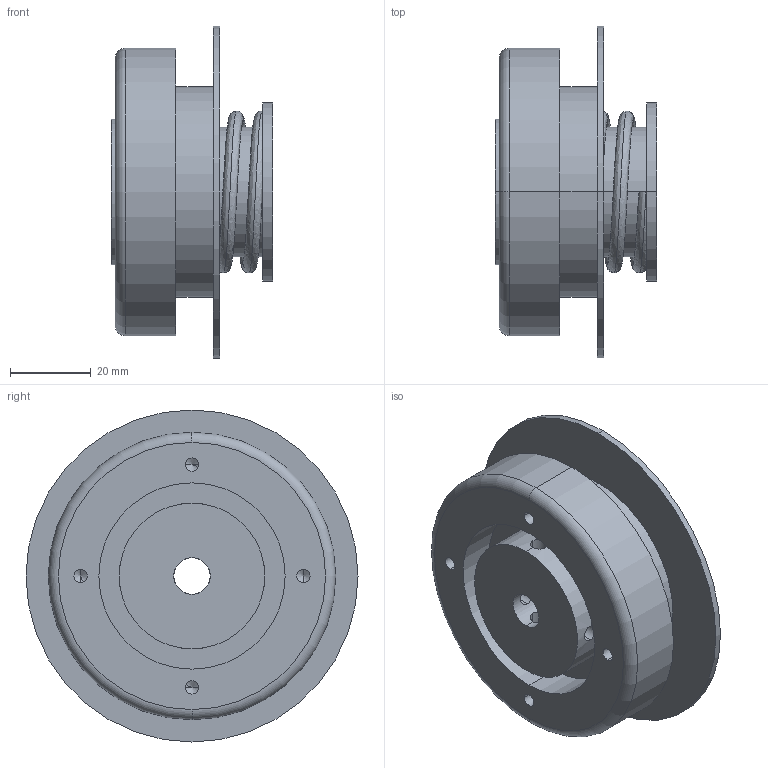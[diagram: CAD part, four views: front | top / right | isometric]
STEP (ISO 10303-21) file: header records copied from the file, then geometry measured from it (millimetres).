
FILE_DESCRIPTION (( 'STEP AP203' ), '1' );
FILE_NAME ('ST5C-030C.STEP', '2009-09-30T17:52:24', ( 'USER' ), ( 'HOME' ), 'SwSTEP 2.0', 'SolidWorks 2007', '' );
FILE_SCHEMA (( 'CONFIG_CONTROL_DESIGN' ));
Length unit declared in the file: millimetre
Products named in the file (1): ST5C-030C
Bounding box: 40 x 82 x 82 mm (x, y, z)
Volume: 88825.5 mm3; surface area: 32868.6 mm2
Topology: 2 solids, 2 shells, 60 faces, 146 edges, 90 vertices
Faces by surface type: cylinder 36, plane 12, cone 8, torus 2, bspline 2
Entity records: 2787 total; most frequent: CARTESIAN_POINT 1325, DIRECTION 294, ORIENTED_EDGE 276, EDGE_CURVE 138, AXIS2_PLACEMENT_3D 123, VERTEX_POINT 90, EDGE_LOOP 78, CIRCLE 64
